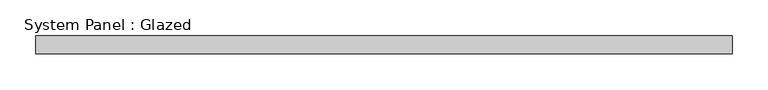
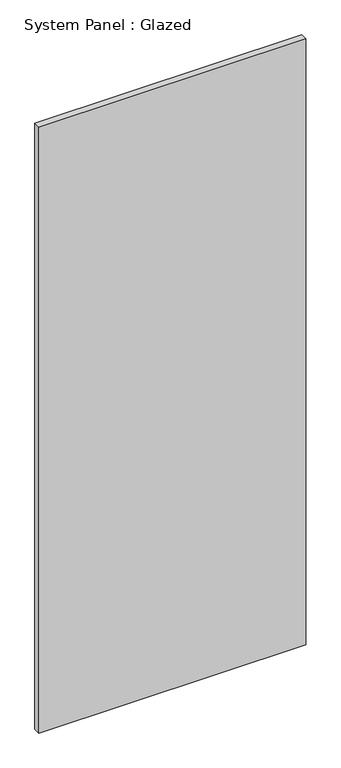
"""IFC4 building model written with IfcOpenShell, lengths in millimetres: plate geometry, System Panel : Glazed."""

from ifc_helpers import new_model, si_unit, origin, origin_with_axes, place, context, project, spatial, polyline, outline, extrude, source, transform, mapped, element, save


def system_panel_glazed_9c1be0ef(model_context):
    return source(origin(), model_context, "Body", "SweptSolid", [
        extrude(outline(polyline([(488.0339313, 19.05), (-488.0339313, 19.05), (-488.0339313, 44.45), (488.0339313, 44.45), (488.0339313, 19.05)])), origin_with_axes(), (0.0, 0.0, 1.0), 2343.15),
    ])


if __name__ == "__main__":
    model = new_model("IFC4")
    model_context = context("Model", 3, world=origin())
    ifc_project = project(units=[si_unit("LENGTHUNIT", "METRE", prefix="MILLI")], contexts=[model_context])
    site = spatial("IfcSite", under=ifc_project)
    building = spatial("IfcBuilding", under=site)
    placement = place(None, origin())
    system_panel_glazed_shape = system_panel_glazed_9c1be0ef(model_context)
    element("IfcPlate", 1, ObjectType="System Panel : Glazed", at=placement, inside=building, context=model_context, shape_type="MappedRepresentation", body=[
        mapped(system_panel_glazed_shape, transform((0.0, 0.0, 0.0), x_axis=(1.0, 0.0, 0.0), y_axis=(0.0, 1.0, 0.0), z_axis=(0.0, 0.0, 1.0))),
    ])
    save(model, "model.ifc")
